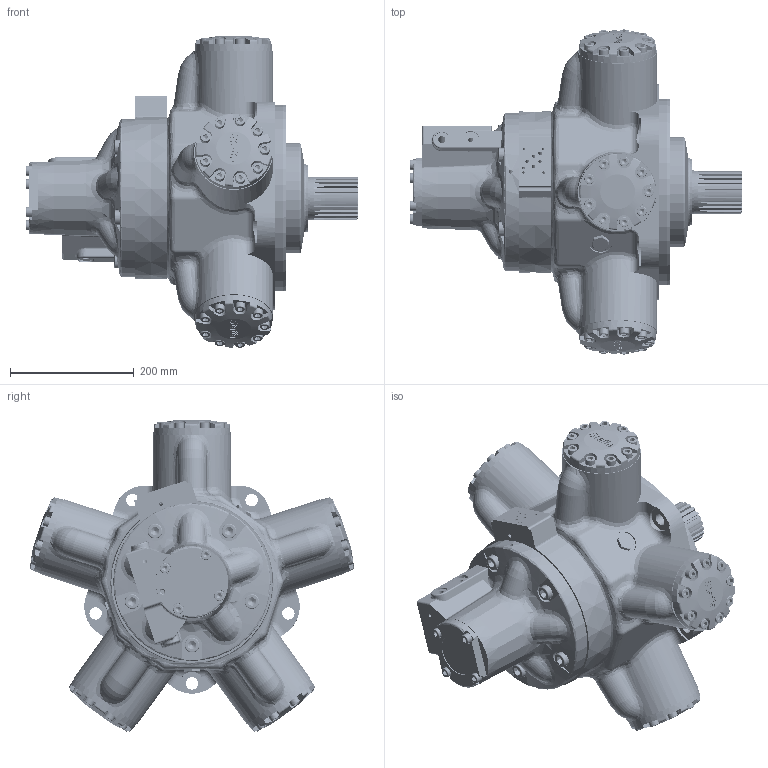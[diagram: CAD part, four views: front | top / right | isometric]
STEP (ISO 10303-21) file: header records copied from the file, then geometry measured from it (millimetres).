
FILE_DESCRIPTION((''),'2;1');
FILE_NAME('I:\3D Step files\Staffa\HMC080 Z FM3 C 70.stp','2009-10-14T16:01:59',('mnorman'),(''),'Autodesk Inventor 2010','Autodesk Inventor 2010','');
FILE_SCHEMA(('AUTOMOTIVE_DESIGN { 1 0 10303 214 1 1 1 1 }'));
Length unit declared in the file: millimetre
Products named in the file (1): Part46
Bounding box: 535.65 x 524.48 x 502.41 mm (x, y, z)
Volume: 17784036.2 mm3; surface area: 1644042.2 mm2
Topology: 129 solids, 129 shells, 3449 faces, 8557 edges, 5533 vertices
Faces by surface type: plane 1356, bspline 1162, cylinder 475, cone 251, torus 185, sphere 20
Full cylindrical faces by diameter (mm): 4 x1, 6.2 x1, 8.016 x1, 10 x59, 10.5 x45, 11.8 x2, 12 x1, 15.875 x5, 16 x59, 16.51 x1, 16.7 x5, 19.05 x1, 22 x10, 22.225 x10, 23.825 x5, 24.892 x2, 27.495 x1, 28.575 x5, 28.677 x5, 31.75 x2, 32 x2, 38.176 x5, 65.1 x1, 67 x1, 68.58 x1, 69.367 x1, 69.825 x1, 73.228 x5, 73.914 x1, 75.032 x1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
Entity records: 116399 total; most frequent: CARTESIAN_POINT 44226, ORIENTED_EDGE 14094, DIRECTION 12049, EDGE_CURVE 7047, VERTEX_POINT 4985, EDGE_LOOP 4746, AXIS2_PLACEMENT_3D 4567, FACE_OUTER_BOUND 3446
